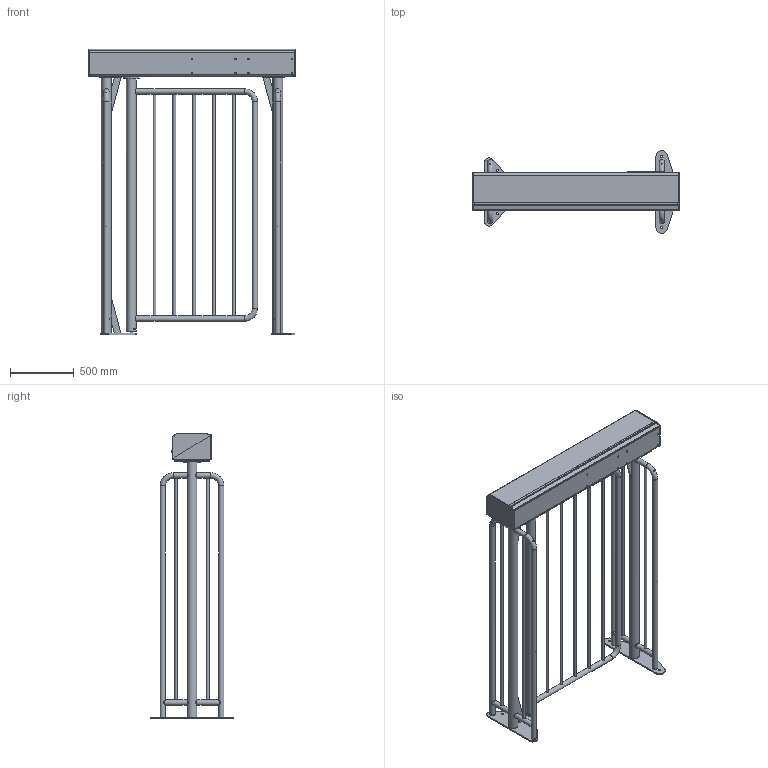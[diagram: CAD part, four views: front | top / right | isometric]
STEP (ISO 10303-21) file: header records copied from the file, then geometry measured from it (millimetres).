
FILE_DESCRIPTION(/* description */ ('Unknown'),/* implementation_level */ '2;1');
FILE_NAME(/* name */ '55870029_00',/* time_stamp */ '2026-04-24T07:28:11+02:00',/* author */ ('Unknown'),/* organization */ ('Unknown'),/* preprocessor_version */ 'ST-DEVELOPER v18.104',/* originating_system */ 'Solid Edge',/* authorisation */ 'Unknown');
FILE_SCHEMA (('AUTOMOTIVE_DESIGN {1 0 10303 214 3 1 1}'));
Products named in the file (1): 55870029
Bounding box: 1623 x 644.76 x 2235.39 mm (x, y, z)
Volume: 21474138.6 mm3; surface area: 12459101.7 mm2
Topology: 91 solids, 91 shells, 1751 faces, 4429 edges, 2879 vertices
Faces by surface type: plane 1096, cylinder 409, cone 201, torus 40, bspline 4, sphere 1
Full cylindrical faces by diameter (mm): 0.1 x10, 1 x1, 2 x1, 3.3 x1, 4 x6, 4.2 x5, 4.3 x2, 4.4 x1, 4.5 x2, 5 x5, 5.5 x14, 5.9 x2, 6 x1, 6.5 x1, 6.8 x3, 7 x5, 7.5 x2, 8 x9, 8.16 x1, 8.376 x4, 8.5 x31, 9 x2, 10 x5, 10.106 x13, 10.156 x5, 10.2 x1, 10.5 x1, 10.7 x1, 12 x8, 12.5 x2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
Entity records: 61152 total; most frequent: CARTESIAN_POINT 19546, DIRECTION 7992, ORIENTED_EDGE 7548, EDGE_CURVE 3774, AXIS2_PLACEMENT_3D 2971, VERTEX_POINT 2697, FACE_BOUND 2597, EDGE_LOOP 2590
